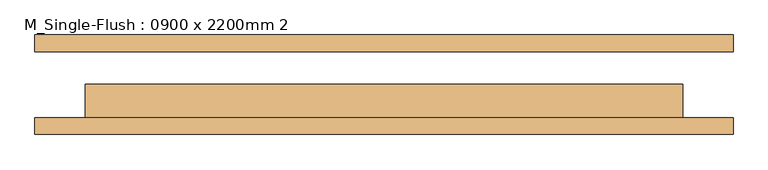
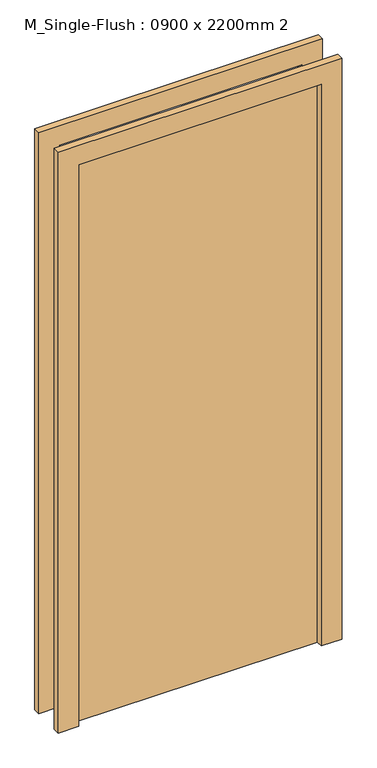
"""IFC4 building model written with IfcOpenShell, lengths in millimetres: door geometry, M_Single-Flush : 0900 x 2200mm 2."""

from ifc_helpers import new_model, si_unit, frame, origin, origin_with_axes, place, context, project, spatial, polyline, outline, extrude, source, transform, mapped, element, save


def m_single_flush_0900_x_2200mm_2_1c9fdd87(model_context):
    return source(origin(), model_context, "Body", "SweptSolid", [
        extrude(outline(polyline([(2276.0, -526.0), (0.0, -526.0), (0.0, -450.0), (2200.0, -450.0), (2200.0, 450.0), (0.0, 450.0), (0.0, 526.0), (2276.0, 526.0), (2276.0, -526.0)])), frame((0.0, -75.0, 0.0), z_axis=(0.0, 1.0, 0.0), x_axis=(0.0, 0.0, 1.0)), (0.0, 0.0, 1.0), 25.0),
        extrude(outline(polyline([(2276.0, 526.0), (2276.0, -526.0), (0.0, -526.0), (0.0, -450.0), (2200.0, -450.0), (2200.0, 450.0), (0.0, 450.0), (0.0, 526.0), (2276.0, 526.0)])), frame((0.0, 50.0, 0.0), z_axis=(0.0, 1.0, 0.0), x_axis=(0.0, 0.0, 1.0)), (0.0, 0.0, 1.0), 25.0),
        extrude(outline(polyline([(450.0, 1.0), (450.0, -50.0), (-450.0, -50.0), (-450.0, 1.0), (450.0, 1.0)])), origin_with_axes(), (0.0, 0.0, 1.0), 2200.0),
    ])


if __name__ == "__main__":
    model = new_model("IFC4")
    model_context = context("Model", 3, world=origin())
    ifc_project = project(units=[si_unit("LENGTHUNIT", "METRE", prefix="MILLI")], contexts=[model_context])
    site = spatial("IfcSite", under=ifc_project)
    building = spatial("IfcBuilding", under=site)
    placement = place(None, origin())
    m_single_flush_0900_x_2200mm_2_shape = m_single_flush_0900_x_2200mm_2_1c9fdd87(model_context)
    element("IfcDoor", 1, ObjectType="M_Single-Flush : 0900 x 2200mm 2", at=placement, inside=building, context=model_context, shape_type="MappedRepresentation", body=[
        mapped(m_single_flush_0900_x_2200mm_2_shape, transform((0.0, 0.0, 0.0), x_axis=(1.0, 0.0, 0.0), y_axis=(0.0, 1.0, 0.0), z_axis=(0.0, 0.0, 1.0))),
    ])
    save(model, "model.ifc")
